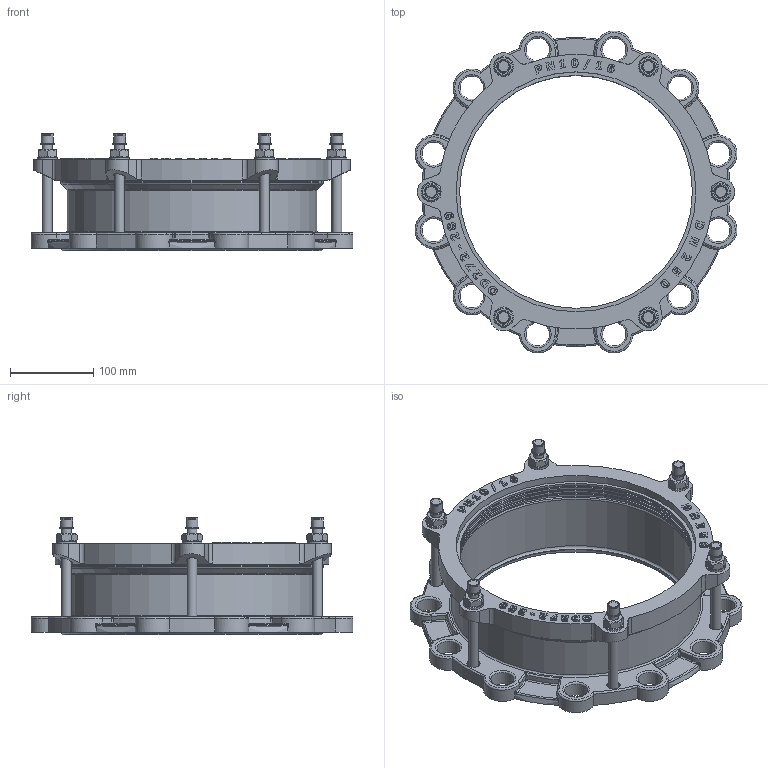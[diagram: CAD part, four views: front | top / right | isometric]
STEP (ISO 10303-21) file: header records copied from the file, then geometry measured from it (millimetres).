
FILE_DESCRIPTION(('STEP AP203'), '1');
FILE_NAME('Ôëàíöåâûé àäàïòåð', '', ('UNSPECIFIED'), ('UNSPECIFIED'), 'C3D Converter', 'C3D Toolkit', '');
FILE_SCHEMA(('CONFIG_CONTROL_DESIGN'));
Length unit declared in the file: millimetre
Assembly tree (27 placements, depth 2):
  (unnamed)
    (unnamed)
    (unnamed)  x6
    (unnamed)  x6
    (unnamed)  x6
    (unnamed)  x6
    (unnamed)
    (unnamed)
Bounding box: 387.9 x 387.9 x 141.2 mm (x, y, z)
Volume: 1825205.8 mm3; surface area: 530676.4 mm2
Topology: 27 solids, 27 shells, 1262 faces, 3148 edges, 1930 vertices
Faces by surface type: plane 392, extrusion 348, cylinder 291, torus 101, bspline 48, cone 46, sphere 36
Full cylindrical faces by diameter (mm): 12 x18, 13 x6, 13.478 x1, 14 x12, 14.4 x6, 16.8 x6, 24 x6, 28 x12, 280.5 x5, 284.75 x3, 289 x2, 295 x1, 301 x2, 313 x1, 316 x1, 319 x2
Entity records: 46885 total; most frequent: CARTESIAN_POINT 18076, ORIENTED_EDGE 5160, DIRECTION 4084, EDGE_CURVE 2580, VERTEX_POINT 1670, VECTOR 1422, AXIS2_PLACEMENT_3D 1331, EDGE_LOOP 1268
